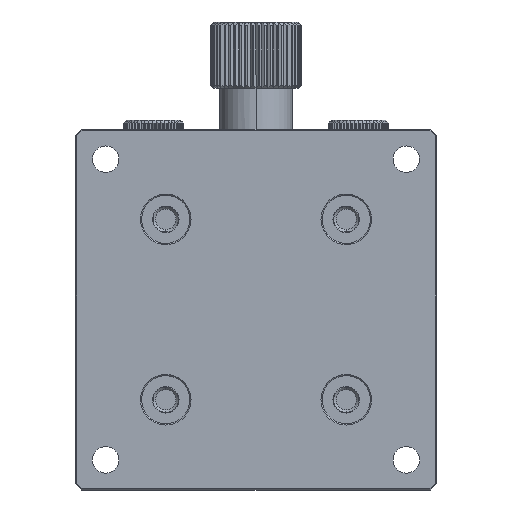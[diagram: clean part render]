
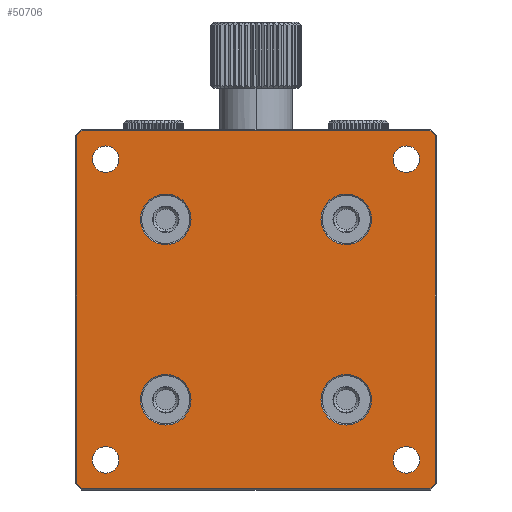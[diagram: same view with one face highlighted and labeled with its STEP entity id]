
A CAD part, front view. The second image highlights one B-rep face of the part: STEP entity #50706.
In plain terms, the highlighted planar face has unit normal (0, -1, 0).
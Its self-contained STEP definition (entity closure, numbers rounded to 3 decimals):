
#49595=CARTESIAN_POINT('',(-25.,0.,-25.));
#49596=DIRECTION('',(0.,1.,0.));
#49597=DIRECTION('',(1.,0.,0.));
#49598=AXIS2_PLACEMENT_3D('',#49595,#49596,#49597);
#49600=CARTESIAN_POINT('',(-25.,0.,-25.));
#49601=DIRECTION('',(0.,1.,0.));
#49602=DIRECTION('',(-1.,0.,0.));
#49603=AXIS2_PLACEMENT_3D('',#49600,#49601,#49602);
#49605=CARTESIAN_POINT('',(25.,0.,-25.));
#49606=DIRECTION('',(0.,1.,0.));
#49607=DIRECTION('',(1.,0.,0.));
#49608=AXIS2_PLACEMENT_3D('',#49605,#49606,#49607);
#49610=CARTESIAN_POINT('',(25.,0.,-25.));
#49611=DIRECTION('',(0.,1.,0.));
#49612=DIRECTION('',(-1.,0.,0.));
#49613=AXIS2_PLACEMENT_3D('',#49610,#49611,#49612);
#49615=CARTESIAN_POINT('',(-25.,0.,25.));
#49616=DIRECTION('',(0.,1.,0.));
#49617=DIRECTION('',(1.,0.,0.));
#49618=AXIS2_PLACEMENT_3D('',#49615,#49616,#49617);
#49620=CARTESIAN_POINT('',(-25.,0.,25.));
#49621=DIRECTION('',(0.,1.,0.));
#49622=DIRECTION('',(-1.,0.,0.));
#49623=AXIS2_PLACEMENT_3D('',#49620,#49621,#49622);
#49625=CARTESIAN_POINT('',(25.,0.,25.));
#49626=DIRECTION('',(0.,1.,0.));
#49627=DIRECTION('',(1.,0.,0.));
#49628=AXIS2_PLACEMENT_3D('',#49625,#49626,#49627);
#49630=CARTESIAN_POINT('',(25.,0.,25.));
#49631=DIRECTION('',(0.,1.,0.));
#49632=DIRECTION('',(-1.,0.,0.));
#49633=AXIS2_PLACEMENT_3D('',#49630,#49631,#49632);
#49635=DIRECTION('',(-0.707,0.,-0.707));
#49636=VECTOR('',#49635,1.249);
#49637=CARTESIAN_POINT('',(-28.917,0.,29.8));
#49638=LINE('',#49637,#49636);
#49639=DIRECTION('',(-1.,0.,0.));
#49640=VECTOR('',#49639,57.834);
#49641=CARTESIAN_POINT('',(28.917,0.,29.8));
#49642=LINE('',#49641,#49640);
#49643=DIRECTION('',(-0.707,0.,0.707));
#49644=VECTOR('',#49643,1.249);
#49645=CARTESIAN_POINT('',(29.8,0.,28.917));
#49646=LINE('',#49645,#49644);
#49647=DIRECTION('',(0.,0.,1.));
#49648=VECTOR('',#49647,57.834);
#49649=CARTESIAN_POINT('',(29.8,0.,-28.917));
#49650=LINE('',#49649,#49648);
#49651=DIRECTION('',(0.707,0.,0.707));
#49652=VECTOR('',#49651,1.249);
#49653=CARTESIAN_POINT('',(28.917,0.,-29.8));
#49654=LINE('',#49653,#49652);
#49655=DIRECTION('',(1.,0.,0.));
#49656=VECTOR('',#49655,57.834);
#49657=CARTESIAN_POINT('',(-28.917,0.,-29.8));
#49658=LINE('',#49657,#49656);
#49659=DIRECTION('',(0.707,0.,-0.707));
#49660=VECTOR('',#49659,1.249);
#49661=CARTESIAN_POINT('',(-29.8,0.,-28.917));
#49662=LINE('',#49661,#49660);
#49663=DIRECTION('',(0.,0.,-1.));
#49664=VECTOR('',#49663,57.834);
#49665=CARTESIAN_POINT('',(-29.8,0.,28.917));
#49666=LINE('',#49665,#49664);
#49667=CARTESIAN_POINT('',(15.,0.,-15.));
#49668=DIRECTION('',(0.,1.,0.));
#49669=DIRECTION('',(-1.,0.,0.));
#49670=AXIS2_PLACEMENT_3D('',#49667,#49668,#49669);
#49672=CARTESIAN_POINT('',(15.,0.,-15.));
#49673=DIRECTION('',(0.,1.,0.));
#49674=DIRECTION('',(1.,0.,0.));
#49675=AXIS2_PLACEMENT_3D('',#49672,#49673,#49674);
#49677=CARTESIAN_POINT('',(15.,0.,15.));
#49678=DIRECTION('',(0.,1.,0.));
#49679=DIRECTION('',(-1.,0.,0.));
#49680=AXIS2_PLACEMENT_3D('',#49677,#49678,#49679);
#49682=CARTESIAN_POINT('',(15.,0.,15.));
#49683=DIRECTION('',(0.,1.,0.));
#49684=DIRECTION('',(1.,0.,0.));
#49685=AXIS2_PLACEMENT_3D('',#49682,#49683,#49684);
#49687=CARTESIAN_POINT('',(-15.,0.,-15.));
#49688=DIRECTION('',(0.,1.,0.));
#49689=DIRECTION('',(-1.,0.,0.));
#49690=AXIS2_PLACEMENT_3D('',#49687,#49688,#49689);
#49692=CARTESIAN_POINT('',(-15.,0.,-15.));
#49693=DIRECTION('',(0.,1.,0.));
#49694=DIRECTION('',(1.,0.,0.));
#49695=AXIS2_PLACEMENT_3D('',#49692,#49693,#49694);
#49697=CARTESIAN_POINT('',(-15.,0.,15.));
#49698=DIRECTION('',(0.,1.,0.));
#49699=DIRECTION('',(-1.,0.,0.));
#49700=AXIS2_PLACEMENT_3D('',#49697,#49698,#49699);
#49702=CARTESIAN_POINT('',(-15.,0.,15.));
#49703=DIRECTION('',(0.,1.,0.));
#49704=DIRECTION('',(1.,0.,0.));
#49705=AXIS2_PLACEMENT_3D('',#49702,#49703,#49704);
#50443=CARTESIAN_POINT('',(-22.8,0.,-25.));
#50444=CARTESIAN_POINT('',(-27.2,0.,-25.));
#50445=VERTEX_POINT('',#50443);
#50446=VERTEX_POINT('',#50444);
#50447=CARTESIAN_POINT('',(27.2,0.,-25.));
#50448=CARTESIAN_POINT('',(22.8,0.,-25.));
#50449=VERTEX_POINT('',#50447);
#50450=VERTEX_POINT('',#50448);
#50451=CARTESIAN_POINT('',(-22.8,0.,25.));
#50452=CARTESIAN_POINT('',(-27.2,0.,25.));
#50453=VERTEX_POINT('',#50451);
#50454=VERTEX_POINT('',#50452);
#50455=CARTESIAN_POINT('',(27.2,0.,25.));
#50456=CARTESIAN_POINT('',(22.8,0.,25.));
#50457=VERTEX_POINT('',#50455);
#50458=VERTEX_POINT('',#50456);
#50507=CARTESIAN_POINT('',(-28.917,0.,29.8));
#50508=CARTESIAN_POINT('',(-29.8,0.,28.917));
#50509=VERTEX_POINT('',#50507);
#50510=VERTEX_POINT('',#50508);
#50511=CARTESIAN_POINT('',(-29.8,0.,-28.917));
#50512=VERTEX_POINT('',#50511);
#50513=CARTESIAN_POINT('',(-28.917,0.,-29.8));
#50514=VERTEX_POINT('',#50513);
#50515=CARTESIAN_POINT('',(28.917,0.,-29.8));
#50516=VERTEX_POINT('',#50515);
#50517=CARTESIAN_POINT('',(29.8,0.,-28.917));
#50518=VERTEX_POINT('',#50517);
#50519=CARTESIAN_POINT('',(29.8,0.,28.917));
#50520=VERTEX_POINT('',#50519);
#50521=CARTESIAN_POINT('',(28.917,0.,29.8));
#50522=VERTEX_POINT('',#50521);
#50603=CARTESIAN_POINT('',(10.8,0.,-15.));
#50604=CARTESIAN_POINT('',(19.2,0.,-15.));
#50605=VERTEX_POINT('',#50603);
#50606=VERTEX_POINT('',#50604);
#50611=CARTESIAN_POINT('',(10.8,0.,15.));
#50612=CARTESIAN_POINT('',(19.2,0.,15.));
#50613=VERTEX_POINT('',#50611);
#50614=VERTEX_POINT('',#50612);
#50619=CARTESIAN_POINT('',(-19.2,0.,-15.));
#50620=CARTESIAN_POINT('',(-10.8,0.,-15.));
#50621=VERTEX_POINT('',#50619);
#50622=VERTEX_POINT('',#50620);
#50627=CARTESIAN_POINT('',(-19.2,0.,15.));
#50628=CARTESIAN_POINT('',(-10.8,0.,15.));
#50629=VERTEX_POINT('',#50627);
#50630=VERTEX_POINT('',#50628);
#50635=CARTESIAN_POINT('',(0.,0.,0.));
#50636=DIRECTION('',(0.,1.,0.));
#50637=DIRECTION('',(1.,0.,0.));
#50638=AXIS2_PLACEMENT_3D('',#50635,#50636,#50637);
#50639=PLANE('',#50638);
#50641=ORIENTED_EDGE('',*,*,#50640,.F.);
#50643=ORIENTED_EDGE('',*,*,#50642,.F.);
#50645=ORIENTED_EDGE('',*,*,#50644,.F.);
#50647=ORIENTED_EDGE('',*,*,#50646,.F.);
#50649=ORIENTED_EDGE('',*,*,#50648,.F.);
#50651=ORIENTED_EDGE('',*,*,#50650,.F.);
#50653=ORIENTED_EDGE('',*,*,#50652,.F.);
#50655=ORIENTED_EDGE('',*,*,#50654,.F.);
#50656=EDGE_LOOP('',(#50641,#50643,#50645,#50647,#50649,#50651,#50653,#50655));
#50657=FACE_OUTER_BOUND('',#50656,.F.);
#50659=ORIENTED_EDGE('',*,*,#50658,.F.);
#50661=ORIENTED_EDGE('',*,*,#50660,.F.);
#50662=EDGE_LOOP('',(#50659,#50661));
#50663=FACE_BOUND('',#50662,.F.);
#50665=ORIENTED_EDGE('',*,*,#50664,.F.);
#50667=ORIENTED_EDGE('',*,*,#50666,.F.);
#50668=EDGE_LOOP('',(#50665,#50667));
#50669=FACE_BOUND('',#50668,.F.);
#50671=ORIENTED_EDGE('',*,*,#50670,.F.);
#50673=ORIENTED_EDGE('',*,*,#50672,.F.);
#50674=EDGE_LOOP('',(#50671,#50673));
#50675=FACE_BOUND('',#50674,.F.);
#50677=ORIENTED_EDGE('',*,*,#50676,.F.);
#50679=ORIENTED_EDGE('',*,*,#50678,.F.);
#50680=EDGE_LOOP('',(#50677,#50679));
#50681=FACE_BOUND('',#50680,.F.);
#50683=ORIENTED_EDGE('',*,*,#50682,.F.);
#50685=ORIENTED_EDGE('',*,*,#50684,.F.);
#50686=EDGE_LOOP('',(#50683,#50685));
#50687=FACE_BOUND('',#50686,.F.);
#50689=ORIENTED_EDGE('',*,*,#50688,.F.);
#50691=ORIENTED_EDGE('',*,*,#50690,.F.);
#50692=EDGE_LOOP('',(#50689,#50691));
#50693=FACE_BOUND('',#50692,.F.);
#50695=ORIENTED_EDGE('',*,*,#50694,.F.);
#50697=ORIENTED_EDGE('',*,*,#50696,.F.);
#50698=EDGE_LOOP('',(#50695,#50697));
#50699=FACE_BOUND('',#50698,.F.);
#50701=ORIENTED_EDGE('',*,*,#50700,.F.);
#50703=ORIENTED_EDGE('',*,*,#50702,.F.);
#50704=EDGE_LOOP('',(#50701,#50703));
#50705=FACE_BOUND('',#50704,.F.);
#50706=ADVANCED_FACE('',(#50657,#50663,#50669,#50675,#50681,#50687,#50693,
#50699,#50705),#50639,.F.);
#49599=CIRCLE('',#49598,2.2);
#49604=CIRCLE('',#49603,2.2);
#49609=CIRCLE('',#49608,2.2);
#49614=CIRCLE('',#49613,2.2);
#49619=CIRCLE('',#49618,2.2);
#49624=CIRCLE('',#49623,2.2);
#49629=CIRCLE('',#49628,2.2);
#49634=CIRCLE('',#49633,2.2);
#49671=CIRCLE('',#49670,4.2);
#49676=CIRCLE('',#49675,4.2);
#49681=CIRCLE('',#49680,4.2);
#49686=CIRCLE('',#49685,4.2);
#49691=CIRCLE('',#49690,4.2);
#49696=CIRCLE('',#49695,4.2);
#49701=CIRCLE('',#49700,4.2);
#49706=CIRCLE('',#49705,4.2);
#50640=EDGE_CURVE('',#50509,#50510,#49638,.T.);
#50642=EDGE_CURVE('',#50522,#50509,#49642,.T.);
#50644=EDGE_CURVE('',#50520,#50522,#49646,.T.);
#50646=EDGE_CURVE('',#50518,#50520,#49650,.T.);
#50648=EDGE_CURVE('',#50516,#50518,#49654,.T.);
#50650=EDGE_CURVE('',#50514,#50516,#49658,.T.);
#50652=EDGE_CURVE('',#50512,#50514,#49662,.T.);
#50654=EDGE_CURVE('',#50510,#50512,#49666,.T.);
#50658=EDGE_CURVE('',#50449,#50450,#49609,.T.);
#50660=EDGE_CURVE('',#50450,#50449,#49614,.T.);
#50664=EDGE_CURVE('',#50453,#50454,#49619,.T.);
#50666=EDGE_CURVE('',#50454,#50453,#49624,.T.);
#50670=EDGE_CURVE('',#50457,#50458,#49629,.T.);
#50672=EDGE_CURVE('',#50458,#50457,#49634,.T.);
#50676=EDGE_CURVE('',#50445,#50446,#49599,.T.);
#50678=EDGE_CURVE('',#50446,#50445,#49604,.T.);
#50682=EDGE_CURVE('',#50605,#50606,#49671,.T.);
#50684=EDGE_CURVE('',#50606,#50605,#49676,.T.);
#50688=EDGE_CURVE('',#50613,#50614,#49681,.T.);
#50690=EDGE_CURVE('',#50614,#50613,#49686,.T.);
#50694=EDGE_CURVE('',#50621,#50622,#49691,.T.);
#50696=EDGE_CURVE('',#50622,#50621,#49696,.T.);
#50700=EDGE_CURVE('',#50629,#50630,#49701,.T.);
#50702=EDGE_CURVE('',#50630,#50629,#49706,.T.);
